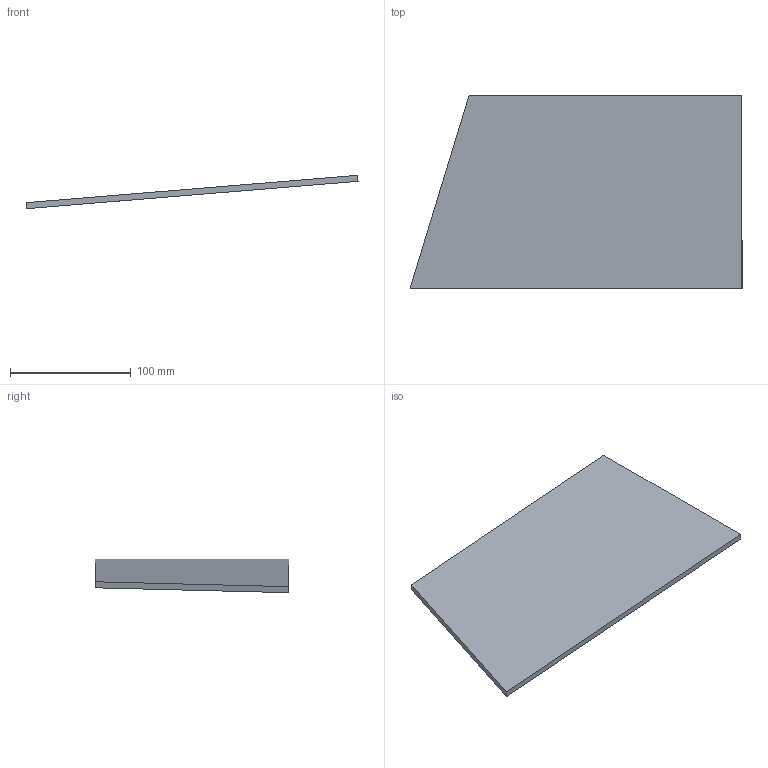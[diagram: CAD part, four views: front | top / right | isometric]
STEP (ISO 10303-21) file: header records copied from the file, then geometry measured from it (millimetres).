
FILE_DESCRIPTION(/* description */ (''),/* implementation_level */ '2;1');
FILE_NAME(/* name */ '2020TOMO-TELAIO-ASSY.00_v12-Part_17.stp',/* time_stamp */ '2022-05-16T13:39:07+02:00',/* author */ (''),/* organization */ (''),/* preprocessor_version */ 'ST-DEVELOPER v18.102',/* originating_system */ 'SIEMENS PLM Software NX 2000',/* authorisation */ '');
FILE_SCHEMA (('AUTOMOTIVE_DESIGN { 1 0 10303 214 3 1 1 1 }'));
Length unit declared in the file: millimetre
Products named in the file (1): turc3144724Fyy8x
Bounding box: 274.48 x 160 x 27.58 mm (x, y, z)
Volume: 200400 mm3; surface area: 84301.7 mm2
Topology: 1 solids, 1 shells, 6 faces, 12 edges, 8 vertices
Faces by surface type: plane 6
Entity records: 188 total; most frequent: CARTESIAN_POINT 27, DIRECTION 26, ORIENTED_EDGE 24, EDGE_CURVE 12, LINE 12, VECTOR 12, VERTEX_POINT 8, AXIS2_PLACEMENT_3D 7
